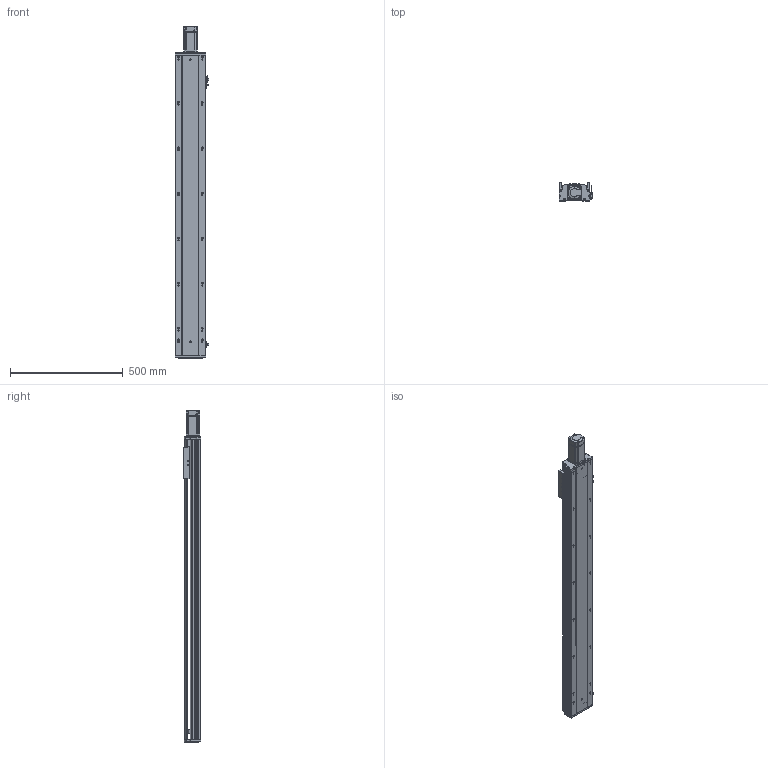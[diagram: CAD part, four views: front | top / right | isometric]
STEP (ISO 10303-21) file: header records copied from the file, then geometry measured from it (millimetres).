
FILE_DESCRIPTION (( 'STEP AP203' ), '1' );
FILE_NAME ('RY140Q-L2010-1000-MK.SLDASM_1100.step', '2021-05-27T07:34:30', ( '盈信电脑' ), ( '东莞市道滘镇水果街19号' ), 'SwSTEP 2.0', 'SolidWorks 2016', '' );
FILE_SCHEMA (( 'CONFIG_CONTROL_DESIGN' ));
Length unit declared in the file: millimetre
Products named in the file (13): RY140ヶ裔啣; 滅袉蝶18-10; 侂狟400W侜督萇儂; RY140Q-1000-MK倰第菁釱_1100; RY140Q-L2010-1000-MK.SLDASM_1100; RY140Q臏賑輸(20佪裝-J; 覜茼ん672; 15; 滅袉蝶18-15; RY140Q萇儂傷盓傅釱FK12(80.5酗M5); RY120外置感应片(140共用）; RY140綴裔啣; RY140Q-1000-MK倰第奻裔啣_1100
Assembly tree (15 placements, depth 3):
  RY140Q-L2010-1000-MK.SLDASM_1100
    RY140Q-1000-MK倰第菁釱_1100
    RY140Q臏賑輸(20佪裝-J
    RY140Q-1000-MK倰第奻裔啣_1100
    RY140ヶ裔啣
    侂狟400W侜督萇儂
      15
    RY140綴裔啣
    覜茼ん672  x3
    RY120外置感应片(140共用）
    RY140Q萇儂傷盓傅釱FK12(80.5酗M5)
    滅袉蝶18-10
    滅袉蝶18-15  x2
Bounding box: 148.7 x 78 x 1469.5 mm (x, y, z)
Volume: 4073239.9 mm3; surface area: 1502639 mm2
Topology: 14 solids, 14 shells, 2160 faces, 5979 edges, 3811 vertices
Faces by surface type: plane 1082, cylinder 774, cone 219, bspline 85
Entity records: 71223 total; most frequent: CARTESIAN_POINT 17054, ORIENTED_EDGE 11202, DIRECTION 10681, EDGE_CURVE 5601, VERTEX_POINT 3671, LINE 3563, VECTOR 3563, AXIS2_PLACEMENT_3D 3559
